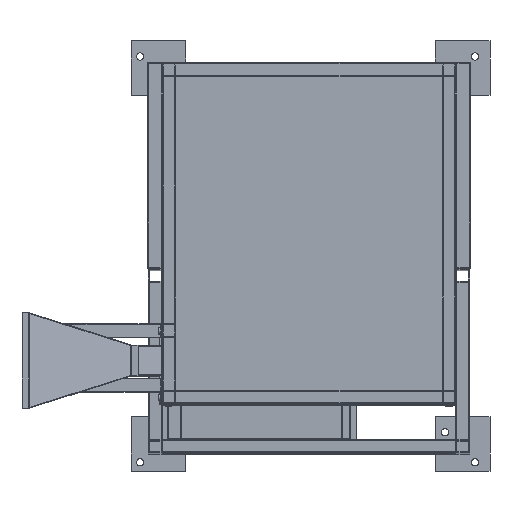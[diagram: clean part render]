
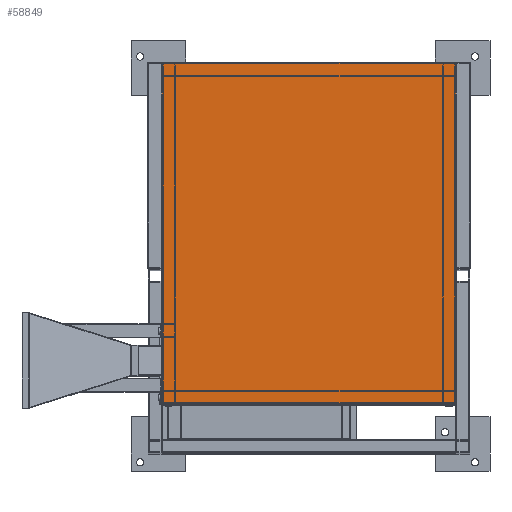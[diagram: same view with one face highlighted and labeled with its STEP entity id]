
A CAD part, top view. The second image highlights one B-rep face of the part: STEP entity #58849.
In plain terms, the highlighted planar face has unit normal (0, 0, 1).
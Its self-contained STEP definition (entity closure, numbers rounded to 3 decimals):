
#58720 = VERTEX_POINT('',#58721);
#58721 = CARTESIAN_POINT('',(-170.,-64.,1498.72));
#58736 = VERTEX_POINT('',#58737);
#58737 = CARTESIAN_POINT('',(-170.,435.,1498.72));
#58743 = EDGE_CURVE('',#58720,#58736,#58744,.T.);
#58744 = LINE('',#58745,#58746);
#58745 = CARTESIAN_POINT('',(-170.,-64.,1498.72));
#58746 = VECTOR('',#58747,1.);
#58747 = DIRECTION('',(-0.,1.,0.));
#58760 = VERTEX_POINT('',#58761);
#58761 = CARTESIAN_POINT('',(260.,-64.,1498.72));
#58776 = VERTEX_POINT('',#58777);
#58777 = CARTESIAN_POINT('',(260.,435.,1498.72));
#58783 = EDGE_CURVE('',#58760,#58776,#58784,.T.);
#58784 = LINE('',#58785,#58786);
#58785 = CARTESIAN_POINT('',(260.,-64.,1498.72));
#58786 = VECTOR('',#58787,1.);
#58787 = DIRECTION('',(-0.,1.,0.));
#58804 = EDGE_CURVE('',#58720,#58760,#58805,.T.);
#58805 = LINE('',#58806,#58807);
#58806 = CARTESIAN_POINT('',(-170.,-64.,1498.72));
#58807 = VECTOR('',#58808,1.);
#58808 = DIRECTION('',(1.,0.,-0.));
#58826 = EDGE_CURVE('',#58736,#58776,#58827,.T.);
#58827 = LINE('',#58828,#58829);
#58828 = CARTESIAN_POINT('',(-170.,435.,1498.72));
#58829 = VECTOR('',#58830,1.);
#58830 = DIRECTION('',(1.,0.,-0.));
#58849 = ADVANCED_FACE('',(#58850),#58856,.T.);
#58850 = FACE_BOUND('',#58851,.T.);
#58851 = EDGE_LOOP('',(#58852,#58853,#58854,#58855));
#58852 = ORIENTED_EDGE('',*,*,#58743,.F.);
#58853 = ORIENTED_EDGE('',*,*,#58804,.T.);
#58854 = ORIENTED_EDGE('',*,*,#58783,.T.);
#58855 = ORIENTED_EDGE('',*,*,#58826,.F.);
#58856 = PLANE('',#58857);
#58857 = AXIS2_PLACEMENT_3D('',#58858,#58859,#58860);
#58858 = CARTESIAN_POINT('',(-170.,-64.,1498.72));
#58859 = DIRECTION('',(0.,0.,1.));
#58860 = DIRECTION('',(1.,0.,-0.));
